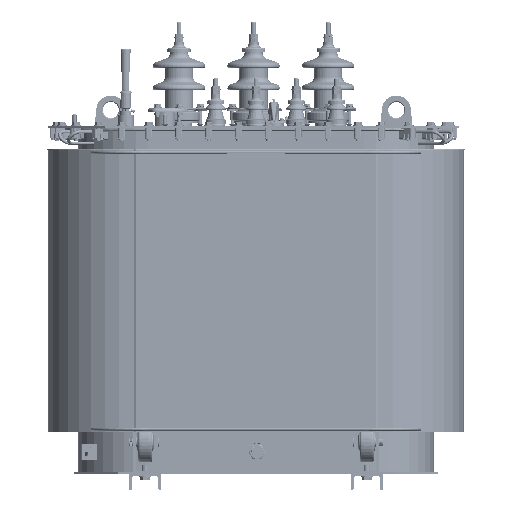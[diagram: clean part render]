
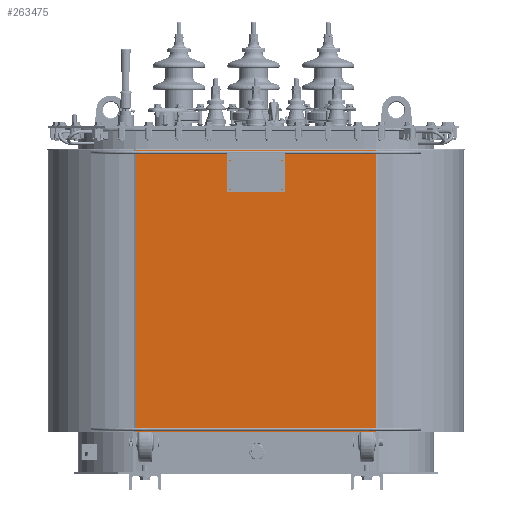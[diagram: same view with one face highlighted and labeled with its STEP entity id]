
A CAD part, front view. The second image highlights one B-rep face of the part: STEP entity #263475.
In plain terms, the highlighted planar face has unit normal (0, 1, 0).
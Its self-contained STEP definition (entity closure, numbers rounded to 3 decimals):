
#28098=LINE('',#521902,#47700);
#28122=LINE('',#521985,#47724);
#28123=LINE('',#521988,#47725);
#28124=LINE('',#521989,#47726);
#47700=VECTOR('',#353229,10.);
#47724=VECTOR('',#353315,10.);
#47725=VECTOR('',#353320,10.);
#47726=VECTOR('',#353321,10.);
#65215=PLANE('',#286975);
#79819=FACE_OUTER_BOUND('',#95721,.T.);
#95721=EDGE_LOOP('',(#232223,#232224,#232225,#232226));
#122863=VERTEX_POINT('',#521896);
#122865=VERTEX_POINT('',#521900);
#122892=VERTEX_POINT('',#521982);
#122893=VERTEX_POINT('',#521984);
#159304=EDGE_CURVE('',#122863,#122865,#28098,.T.);
#159345=EDGE_CURVE('',#122892,#122893,#28122,.T.);
#159347=EDGE_CURVE('',#122863,#122892,#28123,.T.);
#159348=EDGE_CURVE('',#122865,#122893,#28124,.T.);
#232223=ORIENTED_EDGE('',*,*,#159347,.F.);
#232224=ORIENTED_EDGE('',*,*,#159304,.T.);
#232225=ORIENTED_EDGE('',*,*,#159348,.T.);
#232226=ORIENTED_EDGE('',*,*,#159345,.F.);
#263475=ADVANCED_FACE('',(#79819),#65215,.F.);
#286975=AXIS2_PLACEMENT_3D('',#521987,#353318,#353319);
#353229=DIRECTION('',(0.,0.,1.));
#353315=DIRECTION('',(0.,0.,1.));
#353318=DIRECTION('center_axis',(0.,-1.,0.));
#353319=DIRECTION('ref_axis',(1.,0.,0.));
#353320=DIRECTION('',(1.,0.,0.));
#353321=DIRECTION('',(1.,0.,0.));
#521896=CARTESIAN_POINT('',(-298.,-356.,100.));
#521900=CARTESIAN_POINT('',(-298.,-356.,800.));
#521902=CARTESIAN_POINT('',(-298.,-356.,100.));
#521982=CARTESIAN_POINT('',(298.,-356.,100.));
#521984=CARTESIAN_POINT('',(298.,-356.,800.));
#521985=CARTESIAN_POINT('',(298.,-356.,100.));
#521987=CARTESIAN_POINT('Origin',(-298.,-356.,100.));
#521988=CARTESIAN_POINT('',(-298.,-356.,100.));
#521989=CARTESIAN_POINT('',(-298.,-356.,800.));
